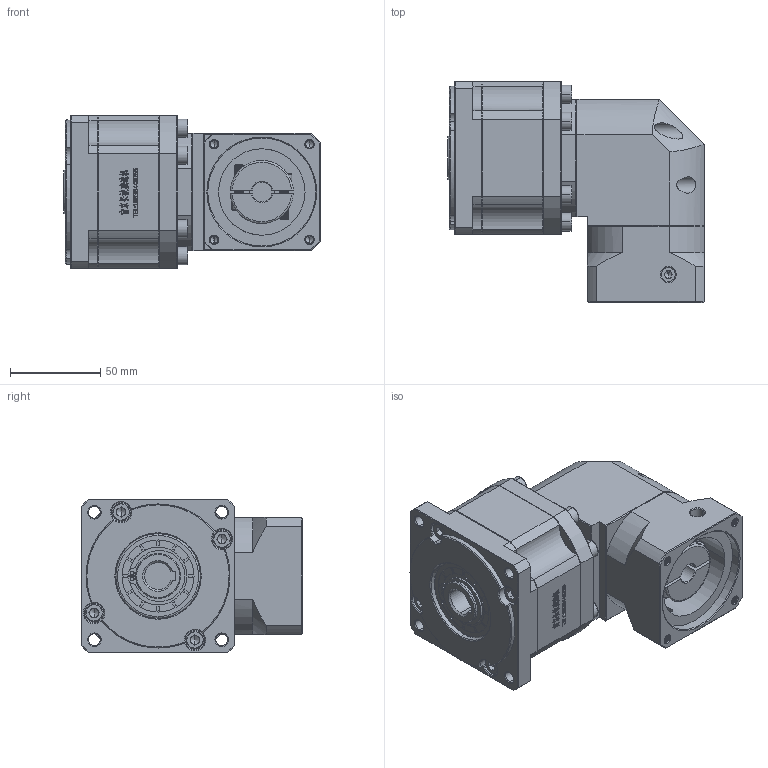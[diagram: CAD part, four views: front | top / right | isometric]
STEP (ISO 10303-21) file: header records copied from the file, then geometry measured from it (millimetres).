
FILE_DESCRIPTION (( 'STEP AP214' ), '1' );
FILE_NAME ('ZBR90-K15-L2-11-60-75-M5.step', '2022-05-07T15:23:48', ( '' ), ( 'Microsoft' ), 'SwSTEP 2.0', 'SolidWorks 2016', '' );
FILE_SCHEMA (( 'AUTOMOTIVE_DESIGN' ));
Length unit declared in the file: millimetre
Products named in the file (1): ZBR90-K15-L2-11-60-75-M5
Bounding box: 142.5 x 122.7 x 85 mm (x, y, z)
Volume: 797509.7 mm3; surface area: 99436.2 mm2
Topology: 5 solids, 5 shells, 2990 faces, 8013 edges, 5166 vertices
Faces by surface type: plane 1591, bspline 610, cylinder 418, cone 363, torus 8
Entity records: 157506 total; most frequent: CARTESIAN_POINT 54362, ORIENTED_EDGE 15938, DIRECTION 12278, EDGE_CURVE 7969, VECTOR 5306, LINE 5306, VERTEX_POINT 5166, AXIS2_PLACEMENT_3D 3486
